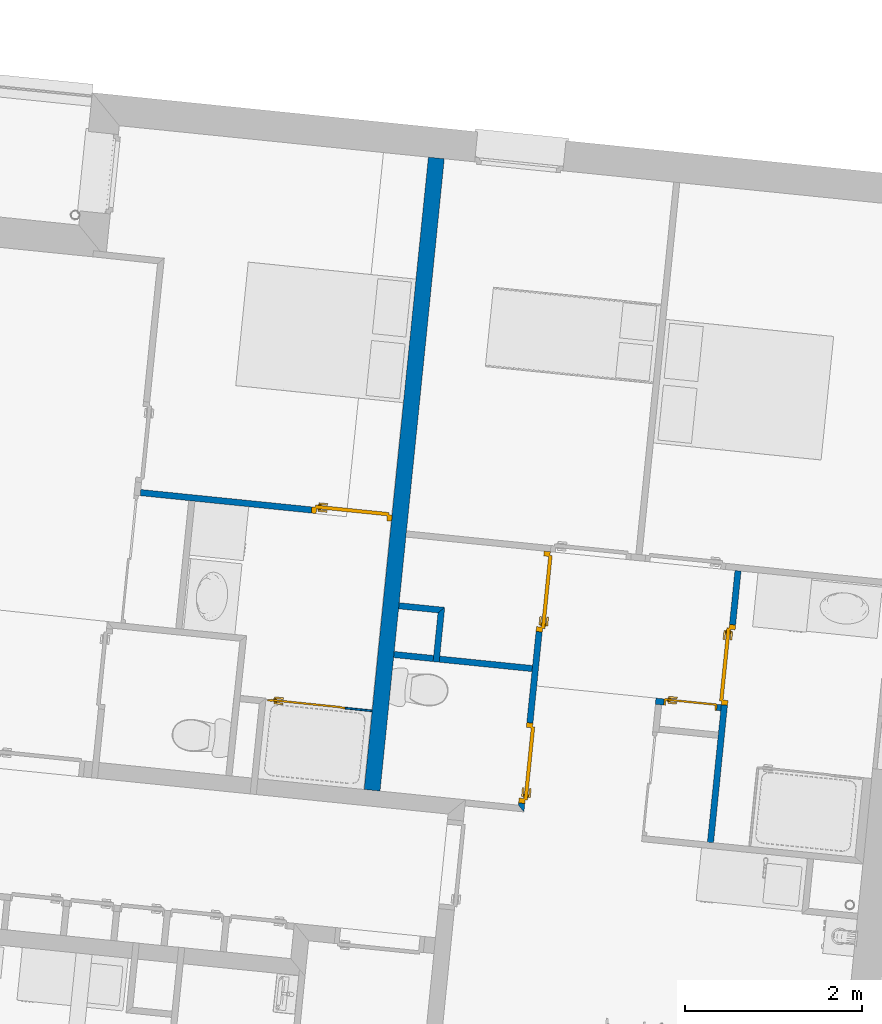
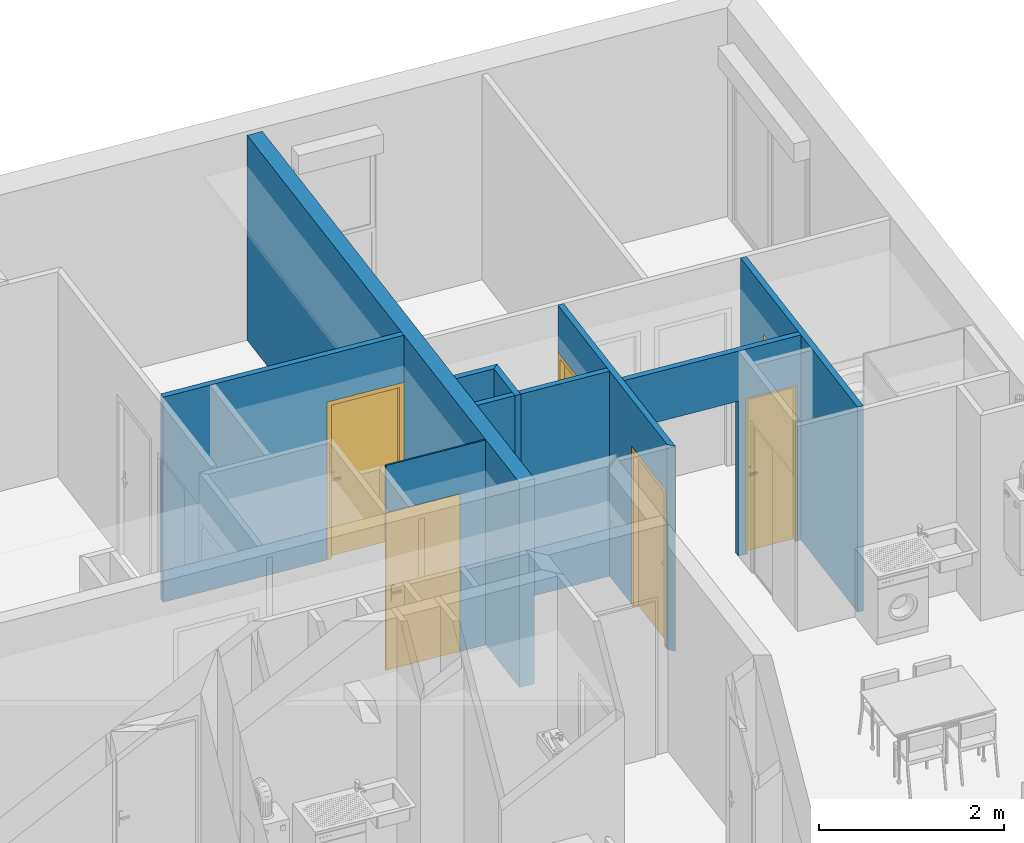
# One storey, part 68 of 164: 9 walls, 6 doors, 7 openings.
"""IFC2X3 building model written with IfcOpenShell, lengths in millimetres."""

from ifc_helpers import new_model, entity, si_unit, converted_unit, derived_unit, money_unit, direction, frame, origin_with_axes, origin_2d_with_axis, place, context, subcontext, project, spatial, polyline, rectangle, outline, extrude, faceted_brep, source, transform, mapped, material, layer, layer_set, layer_usage, type_object, element, fill, save


model = new_model("IFC2X3")

# Units and contexts
model_context = context("Model", 3, precision=0.01, world=origin_with_axes(), true_north=direction((0.0, 1.0)))
body_context = subcontext(model_context, "Body", "Model", "MODEL_VIEW")
ifc_project = project(units=[si_unit("LENGTHUNIT", "METRE", prefix="MILLI"), si_unit("AREAUNIT", "SQUARE_METRE"), si_unit("VOLUMEUNIT", "CUBIC_METRE"), converted_unit("PLANEANGLEUNIT", "DEGREE", entity("IfcPlaneAngleMeasure", 0.0174532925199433), si_unit("PLANEANGLEUNIT", "RADIAN"), dimensions=[0, 0, 0, 0, 0, 0, 0]), money_unit("USD"), converted_unit("TIMEUNIT", "Year", entity("IfcTimeMeasure", 31557600.0), si_unit("TIMEUNIT", "SECOND"), dimensions=[0, 0, 1, 0, 0, 0, 0]), si_unit("MASSUNIT", "GRAM", prefix="KILO"), si_unit("THERMODYNAMICTEMPERATUREUNIT", "DEGREE_CELSIUS"), si_unit("LUMINOUSINTENSITYUNIT", "LUMEN"), si_unit("ENERGYUNIT", "JOULE", prefix="MEGA"), derived_unit("THERMALCONDUCTANCEUNIT", [(si_unit("POWERUNIT", "WATT"), 1), (si_unit("LENGTHUNIT", "METRE"), -1), (si_unit("THERMODYNAMICTEMPERATUREUNIT", "KELVIN"), -1)]), derived_unit("SPECIFICHEATCAPACITYUNIT", [(si_unit("ENERGYUNIT", "JOULE"), 1), (si_unit("MASSUNIT", "GRAM", prefix="KILO"), -1), (si_unit("THERMODYNAMICTEMPERATUREUNIT", "KELVIN"), -1)]), derived_unit("MASSDENSITYUNIT", [(si_unit("MASSUNIT", "GRAM", prefix="KILO"), 1), (si_unit("VOLUMEUNIT", "CUBIC_METRE"), -1)])], contexts=[model_context])

# Site, building, storey
site_placement = place(None, origin_with_axes())
site = spatial("IfcSite", under=ifc_project, at=site_placement, Name="Site", CompositionType="ELEMENT")
building_placement = place(site_placement, origin_with_axes())
building = spatial("IfcBuilding", under=site, at=building_placement, Name="Bâtiment", CompositionType="ELEMENT")
storey_placement = place(building_placement, frame((0.0, 0.0, 5750.0), z_axis=(0.0, 0.0, 1.0), x_axis=(1.0, 0.0, 0.0)))
storey = spatial("IfcBuildingStorey", under=building, at=storey_placement, Name="Etage1", CompositionType="ELEMENT", Elevation=5750.0)

# Walls
ifc_material_1 = material(Name="Parpaing 314940890")
ifc_layer_1 = layer(ifc_material_1, 180.0, ventilated="UNKNOWN")
ifc_layer_set_1 = layer_set([ifc_layer_1], Name="Beton  18 0018356637")
ifc_layer_usage_1 = layer_usage(ifc_layer_set_1, "AXIS2", "POSITIVE", 0.0)
wall_type_1 = type_object("IfcWallType", Name="Beton  18 0018356637 180", PredefinedType="NOTDEFINED")
wall_1_placement = place(storey_placement, frame((2233617.913831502, -613109.5403741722, 0.0), z_axis=(0.0, 0.0, 1.0), x_axis=(0.1011032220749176, 0.9948759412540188, 0.0)))
element("IfcWallStandardCase", 1, at=wall_1_placement, inside=storey, type_object=wall_type_1, material=ifc_layer_usage_1, Name="Mur-143", context=body_context, shape_type="SweptSolid", body=[
    extrude(outline(polyline([(0.0, 0.0), (7161.915024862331, 1.13686837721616e-10), (7161.915024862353, 180.0000000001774), (-9.236032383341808e-06, 180.0000000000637), (0.0, 0.0)])), origin_with_axes(), (0.0, 0.0, 1.0), 2700.0),
])
ifc_material_2 = material(Name="Hachure solide 268963992")
ifc_layer_2 = layer(ifc_material_2, 70.0, ventilated="UNKNOWN")
ifc_layer_set_2 = layer_set([ifc_layer_2], Name="Cloison 70 0826278243")
ifc_layer_usage_2 = layer_usage(ifc_layer_set_2, "AXIS2", "NEGATIVE", 70.0)
wall_type_2 = type_object("IfcWallType", Name="Cloison 70 0826278243 70", PredefinedType="NOTDEFINED")
wall_2_placement = place(storey_placement, frame((2234347.398958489, -611039.1460246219, 0.0), z_axis=(0.0, 0.0, 1.0), x_axis=(-0.9948215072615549, 0.1016374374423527, 0.0)))
element("IfcWallStandardCase", 2, at=wall_2_placement, inside=storey, type_object=wall_type_2, material=ifc_layer_usage_2, Name="Mur-149", context=body_context, shape_type="SweptSolid", body=[
    extrude(outline(polyline([(2.273736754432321e-10, 0.0), (516.4237370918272, 0.0), (516.3861483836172, 70.00000000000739), (69.96200130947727, 70.0000000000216), (2.273736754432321e-10, 0.0)])), origin_with_axes(), (0.0, 0.0, 1.0), 2700.0),
])
ifc_layer_usage_3 = layer_usage(ifc_layer_set_2, "AXIS2", "NEGATIVE", 70.0)
wall_3_placement = place(storey_placement, frame((2234284.513160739, -611657.9918024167, 0.0), z_axis=(0.0, 0.0, 1.0), x_axis=(0.1010972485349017, 0.9948765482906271, 0.0)))
element("IfcWallStandardCase", 3, at=wall_3_placement, inside=storey, type_object=wall_type_2, material=ifc_layer_usage_3, Name="Mur-149", context=body_context, shape_type="SweptSolid", body=[
    extrude(outline(polyline([(0.0, 0.0), (622.0327324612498, 0.0), (552.0707311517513, 69.99999999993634), (0.0, 70.00000000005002), (0.0, 0.0)])), origin_with_axes(), (0.0, 0.0, 1.0), 2700.0),
])

# Wall, opening, door
ifc_layer_usage_4 = layer_usage(ifc_layer_set_2, "AXIS2", "NEGATIVE", 0.0)
wall_4_placement = place(storey_placement, frame((2237306.624648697, -613685.9579165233, 0.0), z_axis=(0.0, 0.0, 1.0), x_axis=(0.1008361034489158, 0.994903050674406, 0.0)))
wall_4 = element("IfcWallStandardCase", 4, at=wall_4_placement, inside=storey, type_object=wall_type_2, material=ifc_layer_usage_4, Name="Mur-153", context=body_context, shape_type="SweptSolid", body=[
    extrude(outline(polyline([(0.0, -70.00000000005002), (3077.584560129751, -70.00000000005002), (3077.603354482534, 0.0), (0.0, 0.0), (0.0, -70.00000000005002)])), origin_with_axes(), (0.0, 0.0, 1.0), 2700.0),
])
opening_1_placement = place(wall_4_placement, frame((2012.540071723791, 0.0, 0.0), z_axis=(0.0, 0.0, 1.0), x_axis=(1.0, 0.0, 0.0)))
opening_1 = element("IfcOpeningElement", 5, at=opening_1_placement, cuts=wall_4, Name="Por-283", context=body_context, shape_type="SweptSolid", body=[
    extrude(rectangle(XDim=910.0, YDim=2080.0, at=origin_2d_with_axis()), frame((0.0, -70.00000000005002, 1040.0), z_axis=(0.0, -1.0, 0.0), x_axis=(-1.0, 0.0, 0.0)), (0.0, 0.0, -1.0), 140.0),
])
door_style = type_object("IfcDoorStyle", Name="Porte_1v", ConstructionType="NOTDEFINED", OperationType="NOTDEFINED", ParameterTakesPrecedence=False, Sizeable=False)
shared_shape_1 = source(origin_with_axes(), body_context, "Body", "Brep", [
    faceted_brep([(-454.9999999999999, 0.0, 0.0), (-454.9999999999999, 0.0, 2080.0), (454.9999999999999, 0.0, 2080.0), (454.9999999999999, 0.0, 0.0), (414.9999999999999, 0.0, 0.0), (414.9999999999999, 0.0, 2040.0), (-414.9999999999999, 0.0, 2040.0), (-414.9999999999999, 0.0, 0.0), (-454.9999999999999, -69.99999999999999, 0.0), (-454.9999999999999, -69.99999999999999, 2080.0), (454.9999999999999, -69.99999999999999, 2080.0), (454.9999999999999, -69.99999999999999, 0.0), (399.9999999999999, -69.99999999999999, 0.0), (399.9999999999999, -15.0, 0.0), (414.9999999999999, -15.0, 0.0), (414.9999999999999, -15.0, 2040.0), (-414.9999999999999, -14.99999999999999, 2040.0), (-414.9999999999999, -14.99999999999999, 0.0), (-399.9999999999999, -14.99999999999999, 0.0), (-399.9999999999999, -69.99999999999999, 0.0), (-399.9999999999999, -69.99999999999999, 2025.0), (399.9999999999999, -69.99999999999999, 2025.0), (399.9999999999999, -15.0, 2025.0), (-399.9999999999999, -14.99999999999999, 2025.0)], [[[0, 1, 2, 3, 4, 5, 6, 7]], [[8, 9, 1, 0]], [[9, 10, 2, 1]], [[10, 11, 3, 2]], [[3, 11, 12, 13, 14, 4]], [[5, 4, 14, 15]], [[6, 5, 15, 16]], [[7, 6, 16, 17]], [[0, 7, 17, 18, 19, 8]], [[19, 20, 21, 12, 11, 10, 9, 8]], [[22, 13, 12, 21]], [[17, 16, 15, 14, 13, 22, 23, 18]], [[18, 23, 20, 19]], [[23, 22, 21, 20]]]),
    faceted_brep([(350.0, -15.0, 900.0), (350.0, -15.0, 1100.0), (389.9999999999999, -15.0, 1100.0), (389.9999999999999, -15.0, 900.0), (350.0, -25.0, 900.0), (350.0, -25.0, 1100.0), (389.9999999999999, -25.0, 1100.0), (389.9999999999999, -25.0, 900.0)], [[[0, 1, 2, 3]], [[0, 4, 5, 1]], [[1, 5, 6, 2]], [[2, 6, 7, 3]], [[3, 7, 4, 0]], [[7, 6, 5, 4]]]),
    faceted_brep([(279.9999999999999, -25.0, 1000.0), (279.9999999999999, -25.0, 1020.0), (379.9999999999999, -25.0, 1020.0), (379.9999999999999, -25.0, 1000.0), (279.9999999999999, -45.0, 1000.0), (279.9999999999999, -45.0, 1020.0), (379.9999999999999, -45.0, 1020.0), (379.9999999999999, -45.0, 1000.0)], [[[0, 1, 2, 3]], [[0, 4, 5, 1]], [[1, 5, 6, 2]], [[2, 6, 7, 3]], [[3, 7, 4, 0]], [[7, 6, 5, 4]]]),
    faceted_brep([(350.0, 34.99999999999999, 900.0), (350.0, 34.99999999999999, 1100.0), (389.9999999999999, 34.99999999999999, 1100.0), (389.9999999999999, 34.99999999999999, 900.0), (350.0, 24.99999999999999, 900.0), (350.0, 24.99999999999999, 1100.0), (389.9999999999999, 24.99999999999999, 1100.0), (389.9999999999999, 24.99999999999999, 900.0)], [[[0, 1, 2, 3]], [[0, 4, 5, 1]], [[1, 5, 6, 2]], [[2, 6, 7, 3]], [[3, 7, 4, 0]], [[7, 6, 5, 4]]]),
    faceted_brep([(279.9999999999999, 54.99999999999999, 1000.0), (279.9999999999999, 54.99999999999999, 1020.0), (379.9999999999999, 54.99999999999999, 1020.0), (379.9999999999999, 54.99999999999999, 1000.0), (279.9999999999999, 34.99999999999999, 1000.0), (279.9999999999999, 34.99999999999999, 1020.0), (379.9999999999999, 34.99999999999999, 1020.0), (379.9999999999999, 34.99999999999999, 1000.0)], [[[0, 1, 2, 3]], [[0, 4, 5, 1]], [[1, 5, 6, 2]], [[2, 6, 7, 3]], [[3, 7, 4, 0]], [[7, 6, 5, 4]]]),
    faceted_brep([(414.9999999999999, 24.99999999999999, 0.0), (414.9999999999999, -15.0, 0.0), (-414.9999999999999, -14.99999999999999, 0.0), (-414.9999999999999, 25.0, 0.0), (414.9999999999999, 24.99999999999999, 2040.0), (414.9999999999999, -15.0, 2040.0), (-414.9999999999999, -14.99999999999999, 2040.0), (-414.9999999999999, 25.0, 2040.0)], [[[0, 1, 2, 3]], [[4, 5, 1, 0]], [[1, 5, 6, 2]], [[3, 2, 6, 7]], [[0, 3, 7, 4]], [[7, 6, 5, 4]]]),
])
door_1_placement = place(opening_1_placement, frame((-415.0000000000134, -2.273736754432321e-10, 0.0), z_axis=(0.0, 0.0, 1.0), x_axis=(1.0, 0.0, 0.0)))
door_1 = element("IfcDoor", 6, at=door_1_placement, inside=storey, type_object=door_style, Name="Por-283", OverallHeight=2040.0, OverallWidth=830.0, context=body_context, shape_type="MappedRepresentation", body=[
    mapped(shared_shape_1, transform((414.9999999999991, 0.0, 0.0))),
])
fill(opening_1, door_1)

ifc_layer_usage_5 = layer_usage(ifc_layer_set_2, "AXIS2", "NEGATIVE", 0.0)
wall_5_placement = place(storey_placement, frame((2233925.107933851, -610086.6889214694, 0.0), z_axis=(0.0, 0.0, 1.0), x_axis=(-0.9948759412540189, 0.1011032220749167, 0.0)))
wall_5 = element("IfcWallStandardCase", 7, at=wall_5_placement, inside=storey, type_object=wall_type_2, material=ifc_layer_usage_5, Name="Mur-148", context=body_context, shape_type="SweptSolid", body=[
    extrude(outline(polyline([(179.99999999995, -70.00000000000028), (3025.443098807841, -69.99999999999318), (3025.449053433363, 0.0), (179.99999999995, 0.0), (179.99999999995, -70.00000000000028)])), origin_with_axes(), (0.0, 0.0, 1.0), 2700.0),
])
opening_2_placement = place(wall_5_placement, frame((633.1615013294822, 0.0, 0.0), z_axis=(0.0, 0.0, 1.0), x_axis=(1.0, 0.0, 0.0)))
opening_2 = element("IfcOpeningElement", 8, at=opening_2_placement, cuts=wall_5, Name="Por-275", context=body_context, shape_type="SweptSolid", body=[
    extrude(rectangle(XDim=910.0, YDim=2080.0, at=origin_2d_with_axis()), frame((-1.13686837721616e-10, 69.99999999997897, 1040.0), z_axis=(0.0, -1.0, 0.0), x_axis=(-1.0, 0.0, 0.0)), (0.0, 0.0, 1.0), 140.0),
])
shared_shape_2 = source(origin_with_axes(), body_context, "Body", "Brep", [
    faceted_brep([(455.0, 0.0, 0.0), (415.0000000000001, 0.0, 0.0), (415.0000000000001, 0.0, 2040.0), (-415.0000000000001, 0.0, 2040.0), (-415.0000000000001, 0.0, 0.0), (-455.0, 0.0, 0.0), (-455.0, 0.0, 2080.0), (455.0, 0.0, 2080.0), (455.0, -70.0, 0.0), (400.0, -70.0, 0.0), (400.0, -15.0, 0.0), (415.0000000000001, -15.0, 0.0), (415.0000000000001, -15.0, 2040.0), (-415.0000000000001, -15.0, 2040.0), (-415.0000000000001, -15.0, 0.0), (-400.0, -15.0, 0.0), (-400.0, -70.0, 0.0), (-455.0, -70.0, 0.0), (-455.0, -70.0, 2080.0), (455.0, -70.0, 2080.0), (-400.0, -70.0, 2025.0), (400.0, -70.0, 2025.0), (400.0, -15.0, 2025.0), (-400.0, -15.0, 2025.0)], [[[0, 1, 2, 3, 4, 5, 6, 7]], [[0, 8, 9, 10, 11, 1]], [[1, 11, 12, 2]], [[2, 12, 13, 3]], [[3, 13, 14, 4]], [[5, 4, 14, 15, 16, 17]], [[18, 6, 5, 17]], [[19, 7, 6, 18]], [[8, 0, 7, 19]], [[9, 8, 19, 18, 17, 16, 20, 21]], [[10, 9, 21, 22]], [[11, 10, 22, 23, 15, 14, 13, 12]], [[23, 20, 16, 15]], [[22, 21, 20, 23]]]),
    faceted_brep([(-350.0000000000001, -15.0, 900.0), (-390.0, -15.0, 900.0), (-390.0, -15.0, 1100.0), (-350.0000000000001, -15.0, 1100.0), (-350.0000000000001, -25.0, 900.0), (-390.0, -25.0, 900.0), (-390.0, -25.0, 1100.0), (-350.0000000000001, -25.0, 1100.0)], [[[0, 1, 2, 3]], [[1, 0, 4, 5]], [[2, 1, 5, 6]], [[3, 2, 6, 7]], [[0, 3, 7, 4]], [[5, 4, 7, 6]]]),
    faceted_brep([(-280.0, -25.0, 1000.0), (-380.0, -25.0, 1000.0), (-380.0, -25.0, 1020.0), (-280.0, -25.0, 1020.0), (-280.0, -45.0, 1000.0), (-380.0, -45.0, 1000.0), (-380.0, -45.0, 1020.0), (-280.0, -45.0, 1020.0)], [[[0, 1, 2, 3]], [[1, 0, 4, 5]], [[2, 1, 5, 6]], [[3, 2, 6, 7]], [[0, 3, 7, 4]], [[5, 4, 7, 6]]]),
    faceted_brep([(-350.0000000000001, 35.0, 900.0), (-390.0, 35.0, 900.0), (-390.0, 35.0, 1100.0), (-350.0000000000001, 35.0, 1100.0), (-350.0000000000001, 25.0, 900.0), (-390.0, 25.0, 900.0), (-390.0, 25.0, 1100.0), (-350.0000000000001, 25.0, 1100.0)], [[[0, 1, 2, 3]], [[1, 0, 4, 5]], [[2, 1, 5, 6]], [[3, 2, 6, 7]], [[0, 3, 7, 4]], [[5, 4, 7, 6]]]),
    faceted_brep([(-280.0, 55.00000000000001, 1000.0), (-380.0, 55.00000000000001, 1000.0), (-380.0, 55.00000000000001, 1020.0), (-280.0, 55.00000000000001, 1020.0), (-280.0, 35.0, 1000.0), (-380.0, 35.0, 1000.0), (-380.0, 35.0, 1020.0), (-280.0, 35.0, 1020.0)], [[[0, 1, 2, 3]], [[1, 0, 4, 5]], [[2, 1, 5, 6]], [[3, 2, 6, 7]], [[0, 3, 7, 4]], [[5, 4, 7, 6]]]),
    faceted_brep([(-415.0000000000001, 25.0, 0.0), (415.0000000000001, 25.0, 0.0), (415.0000000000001, -15.0, 0.0), (-415.0000000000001, -15.0, 0.0), (-415.0000000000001, 25.0, 2040.0), (415.0000000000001, 25.0, 2040.0), (415.0000000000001, -15.0, 2040.0), (-415.0000000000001, -15.0, 2040.0)], [[[0, 1, 2, 3]], [[0, 4, 5, 1]], [[1, 5, 6, 2]], [[3, 2, 6, 7]], [[4, 0, 3, 7]], [[5, 4, 7, 6]]]),
])
door_2_placement = place(opening_2_placement, frame((415.000000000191, 0.0, 0.0), z_axis=(0.0, 0.0, 1.0), x_axis=(-1.0, 0.0, 0.0)))
door_2 = element("IfcDoor", 9, at=door_2_placement, inside=storey, type_object=door_style, Name="Por-275", OverallHeight=2040.0, OverallWidth=830.0, context=body_context, shape_type="MappedRepresentation", body=[
    mapped(shared_shape_2, transform((414.9999999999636, 69.99999999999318, 0.0))),
])
fill(opening_2, door_2)

# Wall, openings, doors
ifc_layer_usage_6 = layer_usage(ifc_layer_set_2, "AXIS2", "NEGATIVE", 0.0)
wall_6_placement = place(storey_placement, frame((2235176.883858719, -613267.9689967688, 0.0), z_axis=(0.0, 0.0, 1.0), x_axis=(0.1011031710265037, 0.9948759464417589, 0.0)))
wall_6 = element("IfcWallStandardCase", 10, at=wall_6_placement, inside=storey, type_object=wall_type_2, material=ifc_layer_usage_6, Name="Mur-153", context=body_context, shape_type="SweptSolid", body=[
    extrude(outline(polyline([(-70.00000146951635, -69.99999999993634), (2877.079776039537, -69.99999999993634), (2877.079779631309, 0.0), (0.0, 0.0), (-70.00000146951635, -69.99999999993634)])), origin_with_axes(), (0.0, 0.0, 1.0), 2700.0),
])
opening_3_placement = place(wall_6_placement, frame((2422.07977603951, 0.0, 0.0), z_axis=(0.0, 0.0, 1.0), x_axis=(1.0, 0.0, 0.0)))
opening_3 = element("IfcOpeningElement", 11, at=opening_3_placement, cuts=wall_6, Name="Por-283", context=body_context, shape_type="SweptSolid", body=[
    extrude(rectangle(XDim=910.0, YDim=2080.0, at=origin_2d_with_axis()), frame((0.0, 69.99999999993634, 1040.0), z_axis=(0.0, 1.0, 0.0), x_axis=(1.0, 0.0, 0.0)), (0.0, 0.0, -1.0), 140.0),
])
opening_4_placement = place(wall_6_placement, frame((480.543698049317, -1.13686837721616e-10, 0.0), z_axis=(0.0, 0.0, 1.0), x_axis=(1.0, 0.0, 0.0)))
opening_4 = element("IfcOpeningElement", 12, at=opening_4_placement, cuts=wall_6, Name="Por-283", context=body_context, shape_type="SweptSolid", body=[
    extrude(rectangle(XDim=910.0, YDim=2080.0, at=origin_2d_with_axis()), frame((0.0, 70.00000000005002, 1040.0), z_axis=(0.0, 1.0, 0.0), x_axis=(1.0, 0.0, 0.0)), (0.0, 0.0, -1.0), 140.0),
])
door_3_placement = place(opening_3_placement, frame((415.0000000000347, -3.410605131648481e-10, 0.0), z_axis=(0.0, 0.0, 1.0), x_axis=(-1.0, 0.0, 0.0)))
door_3 = element("IfcDoor", 13, at=door_3_placement, inside=storey, type_object=door_style, Name="Por-283", OverallHeight=2040.0, OverallWidth=830.0, context=body_context, shape_type="MappedRepresentation", body=[
    mapped(shared_shape_1, transform((415.0000000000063, 69.99999999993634, 0.0))),
])
fill(opening_3, door_3)
door_4_placement = place(opening_4_placement, frame((414.9999999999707, 1.13686837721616e-10, 0.0), z_axis=(0.0, 0.0, 1.0), x_axis=(-1.0, 0.0, 0.0)))
door_4 = element("IfcDoor", 14, at=door_4_placement, inside=storey, type_object=door_style, Name="Por-283", OverallHeight=2040.0, OverallWidth=830.0, context=body_context, shape_type="MappedRepresentation", body=[
    mapped(shared_shape_1, transform((415.0000000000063, 69.99999999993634, 0.0))),
])
fill(opening_4, door_4)

# Wall
ifc_material_3 = material(Name="Hachure solide 269229667")
ifc_layer_3 = layer(ifc_material_3, 70.0, ventilated="UNKNOWN")
ifc_layer_set_3 = layer_set([ifc_layer_3], Name="Cloison 70 0836576958")
ifc_layer_usage_7 = layer_usage(ifc_layer_set_3, "AXIS2", "POSITIVE", 0.0)
wall_type_3 = type_object("IfcWallType", Name="Cloison 70 0836576958 70", PredefinedType="NOTDEFINED")
wall_7_placement = place(storey_placement, frame((2233770.753833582, -611605.5641624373, 0.0), z_axis=(0.0, 0.0, 1.0), x_axis=(0.9948822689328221, -0.1010409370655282, 0.0)))
element("IfcWallStandardCase", 15, at=wall_7_placement, inside=storey, type_object=wall_type_3, material=ifc_layer_usage_7, Name="Mur-148", context=body_context, shape_type="SweptSolid", body=[
    extrude(outline(polyline([(-2.273736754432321e-10, 0.0), (1566.999342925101, 0.0), (1567.003721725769, 70.00000000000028), (0.004382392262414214, 70.00000000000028), (-2.273736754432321e-10, 0.0)])), origin_with_axes(), (0.0, 0.0, 1.0), 2700.0),
])

# Wall, openings, door
ifc_layer_usage_8 = layer_usage(ifc_layer_set_3, "AXIS2", "POSITIVE", 0.0)
wall_8_placement = place(storey_placement, frame((2235306.940015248, -611988.1897326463, 0.0), z_axis=(0.0, 0.0, 1.0), x_axis=(0.9949061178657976, -0.1008058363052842, 0.0)))
wall_8 = element("IfcWallStandardCase", 16, at=wall_8_placement, inside=storey, type_object=wall_type_3, material=ifc_layer_usage_8, Name="Mur-148", context=body_context, shape_type="SweptSolid", body=[
    extrude(outline(polyline([(70.00000312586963, 0.0), (2160.688671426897, 0.0), (2160.690800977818, 70.0000000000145), (70.02092343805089, 70.00000000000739), (70.00000312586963, 0.0)])), origin_with_axes(), (0.0, 0.0, 1.0), 2700.0),
])
opening_5_placement = place(wall_8_placement, frame((1813.832626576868, 0.0, 0.0), z_axis=(0.0, 0.0, 1.0), x_axis=(1.0, 0.0, 0.0)))
opening_5 = element("IfcOpeningElement", 17, at=opening_5_placement, cuts=wall_8, Name="Por-274", context=body_context, shape_type="SweptSolid", body=[
    extrude(rectangle(XDim=599.9999999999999, YDim=2050.0, at=origin_2d_with_axis()), frame((0.0, -70.00000000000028, 1025.0), z_axis=(0.0, 1.0, 0.0), x_axis=(1.0, 0.0, 0.0)), (0.0, 0.0, 1.0), 140.0),
])
opening_6_placement = place(wall_8_placement, frame((745.062630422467, 0.0, 0.0), z_axis=(0.0, 0.0, 1.0), x_axis=(1.0, 0.0, 0.0)))
element("IfcOpeningElement", 18, at=opening_6_placement, cuts=wall_8, Name="Por-283", context=body_context, shape_type="SweptSolid", body=[
    extrude(rectangle(XDim=1350.125254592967, YDim=2040.0, at=origin_2d_with_axis()), frame((-1.13686837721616e-10, 70.0000000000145, 1020.0), z_axis=(0.0, -1.0, 0.0), x_axis=(1.0, 0.0, 0.0)), (0.0, 0.0, -1.0), 70.0),
    extrude(rectangle(XDim=1350.125254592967, YDim=2040.0, at=origin_2d_with_axis()), frame((-1.13686837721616e-10, 70.0000000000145, 1020.0), z_axis=(0.0, 1.0, 0.0), x_axis=(1.0, 0.0, 0.0)), (0.0, 0.0, -1.0), 70.0),
])
shared_shape_3 = source(origin_with_axes(), body_context, "Body", "Brep", [
    faceted_brep([(300.0, 0.0, 0.0), (290.0, 0.0, 0.0), (290.0, 0.0, 2040.0), (-290.0, 0.0, 2040.0), (-290.0, 0.0, 0.0), (-300.0, 0.0, 0.0), (-300.0, 0.0, 2050.0), (300.0, 0.0, 2050.0), (300.0, -70.0, 0.0), (279.9999999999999, -70.0, 0.0), (279.9999999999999, -15.0, 0.0), (290.0, -15.0, 0.0), (290.0, -15.0, 2040.0), (-290.0, -15.0, 2040.0), (-290.0, -15.0, 0.0), (-279.9999999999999, -15.0, 0.0), (-279.9999999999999, -70.0, 0.0), (-300.0, -70.0, 0.0), (-300.0, -70.0, 2050.0), (300.0, -70.0, 2050.0), (-279.9999999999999, -70.0, 2030.0), (279.9999999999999, -70.0, 2030.0), (279.9999999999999, -15.0, 2030.0), (-279.9999999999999, -15.0, 2030.0)], [[[0, 1, 2, 3, 4, 5, 6, 7]], [[0, 8, 9, 10, 11, 1]], [[1, 11, 12, 2]], [[2, 12, 13, 3]], [[3, 13, 14, 4]], [[5, 4, 14, 15, 16, 17]], [[18, 6, 5, 17]], [[19, 7, 6, 18]], [[8, 0, 7, 19]], [[9, 8, 19, 18, 17, 16, 20, 21]], [[10, 9, 21, 22]], [[11, 10, 22, 23, 15, 14, 13, 12]], [[23, 20, 16, 15]], [[22, 21, 20, 23]]]),
    faceted_brep([(-224.9999999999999, -15.0, 900.0), (-264.9999999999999, -15.0, 900.0), (-264.9999999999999, -15.0, 1100.0), (-224.9999999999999, -15.0, 1100.0), (-224.9999999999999, -25.0, 900.0), (-264.9999999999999, -25.0, 900.0), (-264.9999999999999, -25.0, 1100.0), (-224.9999999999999, -25.0, 1100.0)], [[[0, 1, 2, 3]], [[1, 0, 4, 5]], [[2, 1, 5, 6]], [[3, 2, 6, 7]], [[0, 3, 7, 4]], [[5, 4, 7, 6]]]),
    faceted_brep([(-154.9999999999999, -25.0, 1000.0), (-254.9999999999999, -25.0, 1000.0), (-254.9999999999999, -25.0, 1020.0), (-154.9999999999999, -25.0, 1020.0), (-154.9999999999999, -45.0, 1000.0), (-254.9999999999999, -45.0, 1000.0), (-254.9999999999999, -45.0, 1020.0), (-154.9999999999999, -45.0, 1020.0)], [[[0, 1, 2, 3]], [[1, 0, 4, 5]], [[2, 1, 5, 6]], [[3, 2, 6, 7]], [[0, 3, 7, 4]], [[5, 4, 7, 6]]]),
    faceted_brep([(-224.9999999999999, 15.0, 900.0), (-264.9999999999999, 15.0, 900.0), (-264.9999999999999, 15.0, 1100.0), (-224.9999999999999, 15.0, 1100.0), (-224.9999999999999, 5.000000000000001, 900.0), (-264.9999999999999, 5.000000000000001, 900.0), (-264.9999999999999, 5.000000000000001, 1100.0), (-224.9999999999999, 5.000000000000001, 1100.0)], [[[0, 1, 2, 3]], [[1, 0, 4, 5]], [[2, 1, 5, 6]], [[3, 2, 6, 7]], [[0, 3, 7, 4]], [[5, 4, 7, 6]]]),
    faceted_brep([(-154.9999999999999, 35.0, 1000.0), (-254.9999999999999, 35.0, 1000.0), (-254.9999999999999, 35.0, 1020.0), (-154.9999999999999, 35.0, 1020.0), (-154.9999999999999, 15.0, 1000.0), (-254.9999999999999, 15.0, 1000.0), (-254.9999999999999, 15.0, 1020.0), (-154.9999999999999, 15.0, 1020.0)], [[[0, 1, 2, 3]], [[1, 0, 4, 5]], [[2, 1, 5, 6]], [[3, 2, 6, 7]], [[0, 3, 7, 4]], [[5, 4, 7, 6]]]),
    faceted_brep([(-290.0, 5.000000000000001, 0.0), (290.0, 5.000000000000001, 0.0), (290.0, -15.0, 0.0), (-290.0, -15.0, 0.0), (-290.0, 5.000000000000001, 2040.0), (290.0, 5.000000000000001, 2040.0), (290.0, -15.0, 2040.0), (-290.0, -15.0, 2040.0)], [[[0, 1, 2, 3]], [[0, 4, 5, 1]], [[1, 5, 6, 2]], [[3, 2, 6, 7]], [[4, 0, 3, 7]], [[5, 4, 7, 6]]]),
])
door_5_placement = place(opening_5_placement, frame((-290.000000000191, 0.0, 0.0), z_axis=(0.0, 0.0, 1.0), x_axis=(1.0, 0.0, 0.0)))
door_5 = element("IfcDoor", 19, at=door_5_placement, inside=storey, type_object=door_style, Name="Por-274", OverallHeight=2040.0, OverallWidth=580.0, context=body_context, shape_type="MappedRepresentation", body=[
    mapped(shared_shape_3, transform((289.9999999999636, 70.00000000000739, 0.0))),
])
fill(opening_5, door_5)

# Wall, opening, door
ifc_material_4 = material(Name="Empty Fill 292498448")
ifc_layer_4 = layer(ifc_material_4, 20.0, ventilated="UNKNOWN")
ifc_layer_set_4 = layer_set([ifc_layer_4], Name="mur 2cm")
ifc_layer_usage_9 = layer_usage(ifc_layer_set_4, "AXIS2", "POSITIVE", -20.0)
wall_type_4 = type_object("IfcWallType", Name="mur 2cm 20", PredefinedType="NOTDEFINED")
wall_9_placement = place(storey_placement, frame((2232352.670751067, -612074.6068270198, 0.0), z_axis=(0.0, 0.0, 1.0), x_axis=(0.9947283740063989, -0.1025449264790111, 0.0)))
wall_9 = element("IfcWallStandardCase", 20, at=wall_9_placement, inside=storey, type_object=wall_type_4, material=ifc_layer_usage_9, Name="Mur-148", context=body_context, shape_type="SweptSolid", body=[
    extrude(outline(polyline([(1.13686837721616e-10, -20.00000000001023), (1180.110441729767, -20.00000000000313), (1180.110441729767, 0.0), (0.0, 0.0), (1.13686837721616e-10, -20.00000000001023)])), origin_with_axes(), (0.0, 0.0, 1.0), 2700.0),
])
opening_7_placement = place(wall_9_placement, frame((440.0000000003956, 0.0, 0.0), z_axis=(0.0, 0.0, 1.0), x_axis=(1.0, 0.0, 0.0)))
opening_7 = element("IfcOpeningElement", 21, at=opening_7_placement, cuts=wall_9, Name="Por-288", context=body_context, shape_type="SweptSolid", body=[
    extrude(rectangle(XDim=880.0000119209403, YDim=2080.0, at=origin_2d_with_axis()), frame((5.960259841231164e-06, -19.99999999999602, 1040.0), z_axis=(0.0, 1.0, 0.0), x_axis=(1.0, 0.0, 0.0)), (0.0, 0.0, 1.0), 40.0),
])
shared_shape_4 = source(origin_with_axes(), body_context, "Body", "Brep", [
    faceted_brep([(440.0, 0.0, 0.0), (400.0, 0.0, 0.0), (400.0, 0.0, 2040.0), (-400.0, 0.0, 2040.0), (-400.0, 0.0, 0.0), (-440.0, 0.0, 0.0), (-440.0, 0.0, 2080.0), (440.0, 0.0, 2080.0), (440.0, -20.0, 0.0), (385.0, -20.0, 0.0), (385.0, -15.0, 0.0), (400.0, -15.0, 0.0), (400.0, -15.0, 2040.0), (-400.0, -15.0, 2040.0), (-400.0, -15.0, 0.0), (-385.0, -15.0, 0.0), (-385.0, -20.0, 0.0), (-440.0, -20.0, 0.0), (-440.0, -20.0, 2080.0), (440.0, -20.0, 2080.0), (-385.0, -20.0, 2025.0), (385.0, -20.0, 2025.0), (385.0, -15.0, 2025.0), (-385.0, -15.0, 2025.0)], [[[0, 1, 2, 3, 4, 5, 6, 7]], [[0, 8, 9, 10, 11, 1]], [[1, 11, 12, 2]], [[2, 12, 13, 3]], [[3, 13, 14, 4]], [[5, 4, 14, 15, 16, 17]], [[18, 6, 5, 17]], [[19, 7, 6, 18]], [[8, 0, 7, 19]], [[9, 8, 19, 18, 17, 16, 20, 21]], [[10, 9, 21, 22]], [[11, 10, 22, 23, 15, 14, 13, 12]], [[23, 20, 16, 15]], [[22, 21, 20, 23]]]),
    faceted_brep([(-335.0, -15.0, 900.0), (-375.0, -15.0, 900.0), (-375.0, -15.0, 1100.0), (-335.0, -15.0, 1100.0), (-335.0, -25.0, 900.0), (-375.0, -25.0, 900.0), (-375.0, -25.0, 1100.0), (-335.0, -25.0, 1100.0)], [[[0, 1, 2, 3]], [[1, 0, 4, 5]], [[2, 1, 5, 6]], [[3, 2, 6, 7]], [[0, 3, 7, 4]], [[5, 4, 7, 6]]]),
    faceted_brep([(-265.0, -25.0, 1000.0), (-365.0, -25.0, 1000.0), (-365.0, -25.0, 1020.0), (-265.0, -25.0, 1020.0), (-265.0, -45.0, 1000.0), (-365.0, -45.0, 1000.0), (-365.0, -45.0, 1020.0), (-265.0, -45.0, 1020.0)], [[[0, 1, 2, 3]], [[1, 0, 4, 5]], [[2, 1, 5, 6]], [[3, 2, 6, 7]], [[0, 3, 7, 4]], [[5, 4, 7, 6]]]),
    faceted_brep([(-335.0, 15.0, 900.0), (-375.0, 15.0, 900.0), (-375.0, 15.0, 1100.0), (-335.0, 15.0, 1100.0), (-335.0, 5.000000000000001, 900.0), (-375.0, 5.000000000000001, 900.0), (-375.0, 5.000000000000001, 1100.0), (-335.0, 5.000000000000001, 1100.0)], [[[0, 1, 2, 3]], [[1, 0, 4, 5]], [[2, 1, 5, 6]], [[3, 2, 6, 7]], [[0, 3, 7, 4]], [[5, 4, 7, 6]]]),
    faceted_brep([(-265.0, 35.0, 1000.0), (-365.0, 35.0, 1000.0), (-365.0, 35.0, 1020.0), (-265.0, 35.0, 1020.0), (-265.0, 15.0, 1000.0), (-365.0, 15.0, 1000.0), (-365.0, 15.0, 1020.0), (-265.0, 15.0, 1020.0)], [[[0, 1, 2, 3]], [[1, 0, 4, 5]], [[2, 1, 5, 6]], [[3, 2, 6, 7]], [[0, 3, 7, 4]], [[5, 4, 7, 6]]]),
    faceted_brep([(-400.0, 5.000000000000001, 0.0), (400.0, 5.000000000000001, 0.0), (400.0, -15.0, 0.0), (-400.0, -15.0, 0.0), (-400.0, 5.000000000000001, 2040.0), (400.0, 5.000000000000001, 2040.0), (400.0, -15.0, 2040.0), (-400.0, -15.0, 2040.0)], [[[0, 1, 2, 3]], [[0, 4, 5, 1]], [[1, 5, 6, 2]], [[3, 2, 6, 7]], [[4, 0, 3, 7]], [[5, 4, 7, 6]]]),
])
door_6_placement = place(opening_7_placement, frame((-400.0000000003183, 0.0, 0.0), z_axis=(0.0, 0.0, 1.0), x_axis=(1.0, 0.0, 0.0)))
door_6 = element("IfcDoor", 22, at=door_6_placement, inside=storey, type_object=door_style, Name="Por-288", OverallHeight=2040.0, OverallWidth=800.0, context=body_context, shape_type="MappedRepresentation", body=[
    mapped(shared_shape_4, transform((400.0000000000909, 0.0, 0.0))),
])
fill(opening_7, door_6)

save(model, "model.ifc")
